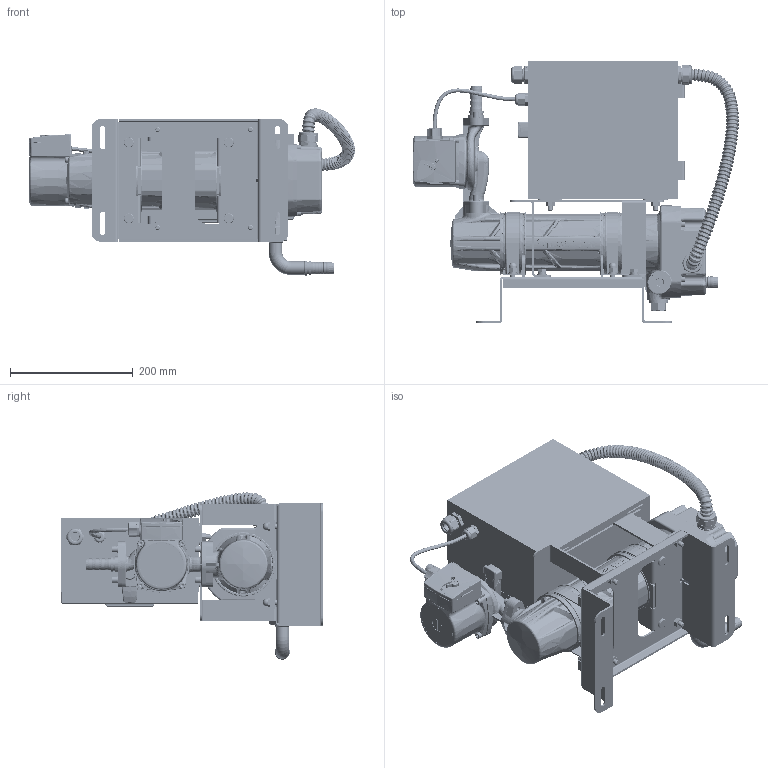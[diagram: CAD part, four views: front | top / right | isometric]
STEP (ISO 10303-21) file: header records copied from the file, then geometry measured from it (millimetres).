
FILE_DESCRIPTION(('CATIA V5 STEP Exchange'),'2;1');
FILE_NAME('C:\Users\Mac\Desktop\HWP40A／HWP60A／HWP90A／HWP120A.stp','2024-07-10T09:36:51+00:00',('none'),('none'),'CATIA Version 5 Release 21 GA (IN-10)','CATIA V5 STEP AP214','none');
FILE_SCHEMA(('AUTOMOTIVE_DESIGN { 1 0 10303 214 1 1 1 1 }'));
Products named in the file (1): HWP40A/HWP60A/HWP90A/HWP120A
Bounding box: 532.01 x 428 x 273.15 mm (x, y, z)
Volume: 11632150.4 mm3; surface area: 1254226 mm2
Topology: 4 solids, 77 shells, 10730 faces, 27388 edges, 16794 vertices
Faces by surface type: bspline 4504, plane 2536, cylinder 2464, cone 695, torus 420, sphere 76, extrusion 29, revolution 6
Entity records: 685078 total; most frequent: CARTESIAN_POINT 479076, ORIENTED_EDGE 54227, EDGE_CURVE 27215, DIRECTION 23561, VERTEX_POINT 16793, B_SPLINE_CURVE_WITH_KNOTS 12293, EDGE_LOOP 11210, ADVANCED_FACE 10730
